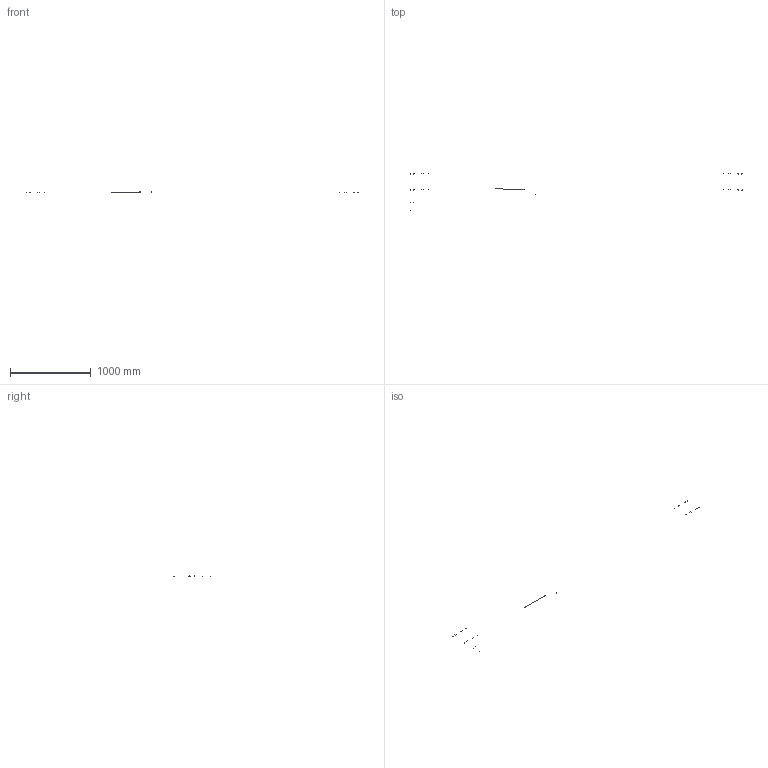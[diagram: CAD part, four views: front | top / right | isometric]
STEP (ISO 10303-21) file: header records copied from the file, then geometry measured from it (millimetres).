
FILE_DESCRIPTION(/* description */ (''),/* implementation_level */ '2;1');
FILE_NAME(/* name */ '1171',/* time_stamp */ '2021-03-01T11:14:51+01:00',/* author */ (''),/* organization */ (''),/* preprocessor_version */ 'ST-DEVELOPER v16.5',/* originating_system */ '',/* authorisation */ '');
FILE_SCHEMA (('CONFIG_CONTROL_DESIGN'));
Length unit declared in the file: millimetre
Products named in the file (1): Document
Bounding box: 4100 x 465.59 x 16.28 mm (x, y, z)
Volume: 911294.6 mm3; surface area: 271980.6 mm2
Topology: 10 solids, 10 shells, 69 faces, 137 edges, 72 vertices
Faces by surface type: bspline 61, plane 6, cylinder 2
Full cylindrical faces by diameter (mm): 1.5 x2
Entity records: 7812 total; most frequent: CARTESIAN_POINT 6959, ORIENTED_EDGE 250, EDGE_CURVE 125, VERTEX_POINT 72, ADVANCED_FACE 69, FACE_OUTER_BOUND 69, EDGE_LOOP 69, B_SPLINE_CURVE_WITH_KNOTS 53
